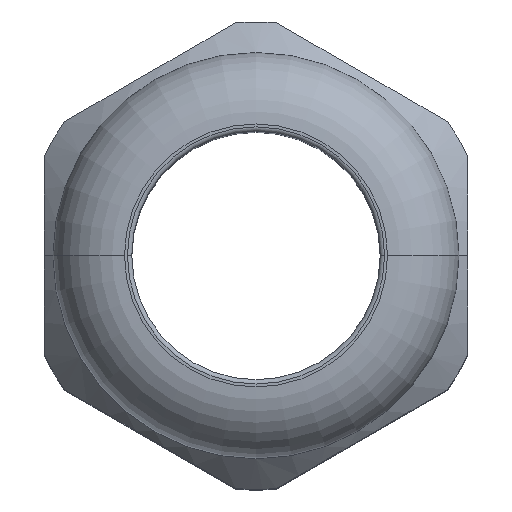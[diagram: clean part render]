
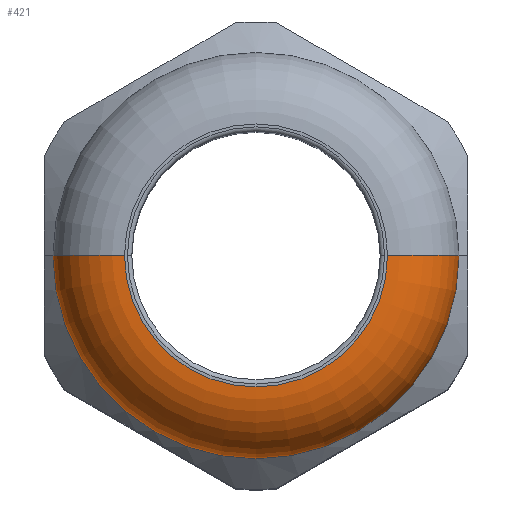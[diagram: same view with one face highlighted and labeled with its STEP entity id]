
A CAD part, top view. The second image highlights one B-rep face of the part: STEP entity #421.
In plain terms, the highlighted toroidal (fillet/blend) face has major radius 9 mm and minor radius 4.9 mm.
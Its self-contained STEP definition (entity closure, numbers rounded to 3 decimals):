
#213 = EDGE_CURVE ( 'NONE', #227, #235, #1275, .T. ) ;
#218 = EDGE_CURVE ( 'NONE', #221, #231, #1314, .T. ) ;
#221 = VERTEX_POINT ( 'NONE', #1309 ) ;
#227 = VERTEX_POINT ( 'NONE', #1298 ) ;
#231 = VERTEX_POINT ( 'NONE', #1291 ) ;
#235 = VERTEX_POINT ( 'NONE', #1349 ) ;
#421 = ADVANCED_FACE ( 'NONE', ( #1723 ), #1722, .T. ) ;
#422 = EDGE_LOOP ( 'NONE', ( #423, #424, #426, #427 ) ) ;
#423 = ORIENTED_EDGE ( 'NONE', *, *, #218, .F. ) ;
#424 = ORIENTED_EDGE ( 'NONE', *, *, #425, .T. ) ;
#425 = EDGE_CURVE ( 'NONE', #221, #227, #1718, .T. ) ;
#426 = ORIENTED_EDGE ( 'NONE', *, *, #213, .T. ) ;
#427 = ORIENTED_EDGE ( 'NONE', *, *, #443, .F. ) ;
#443 = EDGE_CURVE ( 'NONE', #231, #235, #1793, .T. ) ;
#1271 = DIRECTION ( 'NONE',  ( 0., 0., -1. ) ) ;
#1272 = DIRECTION ( 'NONE',  ( 0., -1., 0. ) ) ;
#1273 = CARTESIAN_POINT ( 'NONE',  ( -9., 0., 38.1 ) ) ;
#1274 = AXIS2_PLACEMENT_3D ( 'NONE', #1273, #1272, #1271 ) ;
#1275 = CIRCLE ( 'NONE', #1274, 4.9 ) ;
#1291 = CARTESIAN_POINT ( 'NONE',  ( 13.9, 0., 38.1 ) ) ;
#1298 = CARTESIAN_POINT ( 'NONE',  ( -9., 0., 43. ) ) ;
#1309 = CARTESIAN_POINT ( 'NONE',  ( 9., 0., 43. ) ) ;
#1310 = DIRECTION ( 'NONE',  ( -1., 0., 0. ) ) ;
#1311 = DIRECTION ( 'NONE',  ( 0., 1., 0. ) ) ;
#1312 = CARTESIAN_POINT ( 'NONE',  ( 9., 0., 38.1 ) ) ;
#1313 = AXIS2_PLACEMENT_3D ( 'NONE', #1312, #1311, #1310 ) ;
#1314 = CIRCLE ( 'NONE', #1313, 4.9 ) ;
#1349 = CARTESIAN_POINT ( 'NONE',  ( -13.9, 0., 38.1 ) ) ;
#1714 = DIRECTION ( 'NONE',  ( -1., 0., 0. ) ) ;
#1715 = DIRECTION ( 'NONE',  ( 0., 0., -1. ) ) ;
#1716 = CARTESIAN_POINT ( 'NONE',  ( 0., 0., 43. ) ) ;
#1717 = AXIS2_PLACEMENT_3D ( 'NONE', #1716, #1715, #1714 ) ;
#1718 = CIRCLE ( 'NONE', #1717, 9. ) ;
#1719 = DIRECTION ( 'NONE',  ( -1., 0., 0. ) ) ;
#1720 = DIRECTION ( 'NONE',  ( 0., 0., -1. ) ) ;
#1721 = AXIS2_PLACEMENT_3D ( 'NONE', #1728, #1720, #1719 ) ;
#1722 = TOROIDAL_SURFACE ( 'NONE', #1721, 9., 4.9 ) ;
#1723 = FACE_OUTER_BOUND ( 'NONE', #422, .T. ) ;
#1728 = CARTESIAN_POINT ( 'NONE',  ( 0., 0., 38.1 ) ) ;
#1789 = DIRECTION ( 'NONE',  ( -1., 0., 0. ) ) ;
#1790 = DIRECTION ( 'NONE',  ( 0., 0., -1. ) ) ;
#1791 = CARTESIAN_POINT ( 'NONE',  ( 0., 0., 38.1 ) ) ;
#1792 = AXIS2_PLACEMENT_3D ( 'NONE', #1791, #1790, #1789 ) ;
#1793 = CIRCLE ( 'NONE', #1792, 13.9 ) ;
